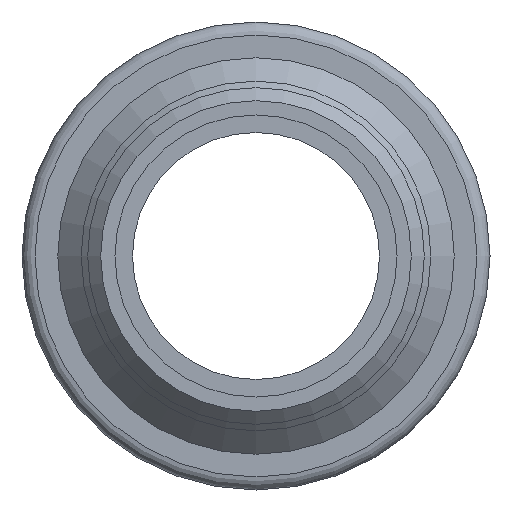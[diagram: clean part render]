
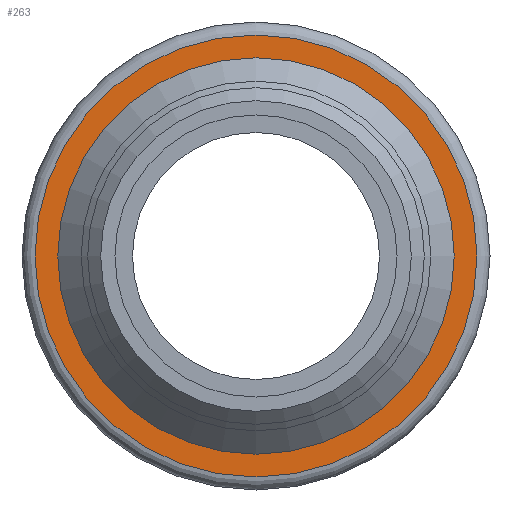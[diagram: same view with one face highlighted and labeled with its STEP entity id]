
A CAD part, front view. The second image highlights one B-rep face of the part: STEP entity #263.
In plain terms, the highlighted planar face has unit normal (0, -1, 0).
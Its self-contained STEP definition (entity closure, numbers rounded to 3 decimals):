
#43=PLANE('',#343);
#87=ORIENTED_EDGE('',*,*,#114,.T.);
#88=ORIENTED_EDGE('',*,*,#113,.F.);
#113=EDGE_CURVE('',#134,#134,#155,.T.);
#114=EDGE_CURVE('',#135,#135,#156,.T.);
#134=VERTEX_POINT('',#499);
#135=VERTEX_POINT('',#502);
#155=CIRCLE('',#342,13.214);
#156=CIRCLE('',#344,17.);
#192=EDGE_LOOP('',(#87));
#193=EDGE_LOOP('',(#88));
#234=FACE_BOUND('',#192,.T.);
#235=FACE_BOUND('',#193,.T.);
#263=ADVANCED_FACE('',(#234,#235),#43,.T.);
#342=AXIS2_PLACEMENT_3D('',#498,#426,#427);
#343=AXIS2_PLACEMENT_3D('',#500,#428,#429);
#344=AXIS2_PLACEMENT_3D('',#501,#430,#431);
#426=DIRECTION('',(0.,-1.,0.));
#427=DIRECTION('',(0.,0.,-1.));
#428=DIRECTION('',(0.,-1.,0.));
#429=DIRECTION('',(0.,0.,-1.));
#430=DIRECTION('',(0.,-1.,0.));
#431=DIRECTION('',(0.,0.,-1.));
#498=CARTESIAN_POINT('',(0.,0.,0.));
#499=CARTESIAN_POINT('',(0.,0.,-13.214));
#500=CARTESIAN_POINT('',(0.,0.,13.214));
#501=CARTESIAN_POINT('',(0.,0.,0.));
#502=CARTESIAN_POINT('',(0.,0.,-17.));
